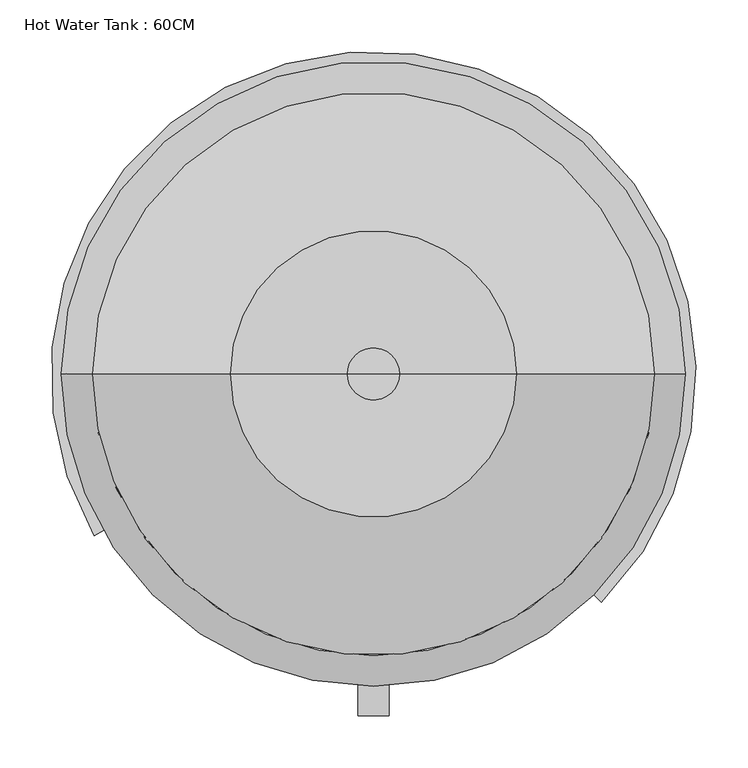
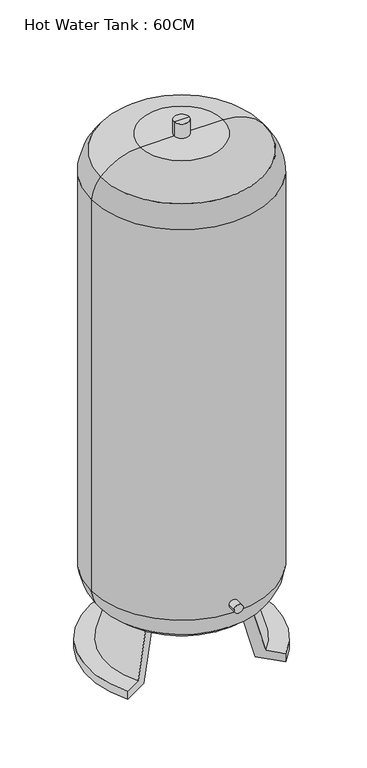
"""IFC4 building model written with IfcOpenShell, lengths in millimetres: flow terminal geometry, Hot Water Tank : 60CM."""

from ifc_helpers import new_model, si_unit, point, frame, frame_2d, origin, origin_2d, place, context, project, spatial, polyline, circle_curve, ellipse_curve, trimmed, segment, composite_curve, outline, extrude, source, transform, mapped, element, save
from ifc_brep_helpers import plane_surface, cylinder_surface, revolved_surface, advanced_brep


def hot_water_tank_60cm_0c93d085(model_context):
    return source(origin(), model_context, "Body", "SolidModel", [
        advanced_brep(
        [(0.0, 0.0, 1800.0), (-25.0, 0.0, 1800.0), (25.0, 0.0, 1800.0), (25.0, 0.0, 1850.0), (-25.0, 0.0, 1850.0), (0.0, 0.0, 1850.0)],
        [
            (0, 1),
            (1, 2, circle_curve(frame((0.0, 0.0, 1800.0), z_axis=(0.0, 0.0, -1.0), x_axis=(-1.0, 0.0, 0.0)), 25.0)),
            (2, 0),
            (2, 1, circle_curve(frame((0.0, 0.0, 1800.0), z_axis=(0.0, 0.0, -1.0), x_axis=(-1.0, 0.0, 0.0)), 25.0)),
            (3, 4, circle_curve(frame((0.0, 0.0, 1850.0), z_axis=(0.0, 0.0, 1.0), x_axis=(-1.0, 0.0, 0.0)), 25.0)),
            (4, 5),
            (5, 3),
            (4, 3, circle_curve(frame((0.0, 0.0, 1850.0), z_axis=(0.0, 0.0, 1.0), x_axis=(-1.0, 0.0, 0.0)), 25.0)),
            (1, 4),
            (3, 2),
        ],
        [
            plane_surface(frame((0.0, 0.0, 1800.0), z_axis=(0.0, 0.0, -1.0), x_axis=(-1.0, 0.0, 0.0))),
            plane_surface(frame((0.0, 0.0, 1850.0), z_axis=(0.0, 0.0, 1.0), x_axis=(-1.0, 0.0, 0.0))),
            cylinder_surface(frame((0.0, 0.0, 2445.24357), z_axis=(0.0, 0.0, -1.0), x_axis=(-1.0, 0.0, 0.0)), 25.0),
        ],
        [
            (0, [[1, 2, 3]]),
            (0, [[-3, 4, -1]]),
            (1, [[5, 6, 7]]),
            (1, [[8, -7, -6]]),
            (2, [[-2, 9, -5, 10]]),
            (2, [[-4, -10, -8, -9]]),
        ],
    ),
        extrude(outline(composite_curve([segment(trimmed(circle_curve(frame_2d((328.663576, 0.0)), 15.0), [point((328.663576, -15.0))], [point((328.663576, 15.0))], False, "CARTESIAN"), True, "CONTINUOUS"), segment(trimmed(circle_curve(frame_2d((328.663576, 0.0)), 15.0), [point((328.663576, 15.0))], [point((328.663576, -15.0))], False, "CARTESIAN"), True, "CONTINUOUS")], self_intersect=False)), frame((0.0, -328.1846937, 0.0), z_axis=(0.0, 1.0, 0.0), x_axis=(0.0, 0.0, 1.0)), (0.0, 0.0, 1.0), 328.1846937),
        extrude(outline(composite_curve([segment(trimmed(circle_curve(origin_2d(), 31.5), [point((31.5, 0.0))], [point((-31.5, 0.0))], False, "CARTESIAN"), True, "CONTINUOUS"), segment(trimmed(circle_curve(origin_2d(), 31.5), [point((-31.5, 0.0))], [point((31.5, 0.0))], False, "CARTESIAN"), True, "CONTINUOUS")], self_intersect=False)), frame((0.0, 0.0, 143.5224269), z_axis=(0.0, 0.0, 1.0), x_axis=(1.0, 0.0, 0.0)), (0.0, 0.0, 1.0), 25.0),
        advanced_brep(
        [(-137.3646911, 0.0, 170.0), (137.3646911, 0.0, 170.0), (0.0, 0.0, 170.0), (0.0, 0.0, 1800.0), (137.3646911, 0.0, 1800.0), (-137.3646911, 0.0, 1800.0), (-300.0, 0.0, 1671.2842497), (300.0, 0.0, 1671.2842497), (300.0, 0.0, 298.7157503), (-300.0, 0.0, 298.7157503), (154.7283228, -154.7283228, 0.0), (219.2031022, -219.2031022, 0.0), (219.2031022, -219.2031022, 28.5224269), (177.229398, -177.229398, 28.5224269), (145.7889001, -145.7889001, 183.5853527), (119.6850882, -119.6850882, 172.831439), (-217.0607962, -125.3201091, 28.5224269), (-268.4678752, -155.0, 28.5224269), (-268.4678752, -155.0, 0.0), (-189.5027198, -109.4094463, 0.0), (-146.5836979, -84.6301375, 172.831439), (-178.5542077, -103.0883199, 183.5853527), (-206.1766398, 0.0, 183.5853527), (206.1766398, 0.0, 183.5853527), (169.2602749, 0.0, 172.831439), (-169.2602749, 0.0, 172.831439), (-270.439329, 0.0, 228.2822685), (270.439329, 0.0, 228.2822685), (-270.439329, 0.0, 1741.7177315), (270.439329, 0.0, 1741.7177315)],
        [
            (0, 1, circle_curve(frame((0.0, 0.0, 170.0), z_axis=(0.0, 0.0, -1.0), x_axis=(1.0, 0.0, 0.0)), 137.3646911)),
            (1, 2),
            (2, 0),
            (1, 0, circle_curve(frame((0.0, 0.0, 170.0), z_axis=(0.0, 0.0, -1.0), x_axis=(1.0, 0.0, 0.0)), 137.3646911)),
            (3, 4),
            (4, 5, circle_curve(frame((0.0, 0.0, 1800.0), z_axis=(0.0, 0.0, 1.0), x_axis=(1.0, 0.0, 0.0)), 137.3646911)),
            (5, 3),
            (5, 4, circle_curve(frame((0.0, 0.0, 1800.0), z_axis=(0.0, 0.0, 1.0), x_axis=(1.0, 0.0, 0.0)), 137.3646911)),
            (6, 7, circle_curve(frame((0.0, 0.0, 1671.2842497), z_axis=(0.0, 0.0, -1.0), x_axis=(1.0, 0.0, 0.0)), 300.0)),
            (7, 8),
            (8, 9, circle_curve(frame((0.0, 0.0, 298.7157503), z_axis=(0.0, 0.0, 1.0), x_axis=(1.0, 0.0, 0.0)), 300.0)),
            (9, 6),
            (7, 6, circle_curve(frame((0.0, 0.0, 1671.2842497), z_axis=(0.0, 0.0, -1.0), x_axis=(1.0, 0.0, 0.0)), 300.0)),
            (9, 8, circle_curve(frame((0.0, 0.0, 298.7157503), z_axis=(0.0, 0.0, 1.0), x_axis=(1.0, 0.0, 0.0)), 300.0)),
            (10, 11),
            (11, 12),
            (12, 13),
            (13, 14),
            (14, 15, circle_curve(frame((97.1315046, -97.1315046, 351.0643496), z_axis=(0.7071067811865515, 0.7071067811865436, 0.0), x_axis=(0.7071067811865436, -0.7071067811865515, 0.0)), 181.0643496)),
            (15, 10),
            (16, 17),
            (17, 18),
            (18, 19),
            (19, 20),
            (20, 21, circle_curve(frame((-118.9613121, -68.6823456, 351.0643496), z_axis=(-0.4999999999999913, 0.8660254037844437, 0.0), x_axis=(-0.8660254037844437, -0.4999999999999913, 0.0)), 181.0643496)),
            (21, 16),
            (10, 19, circle_curve(frame((0.0, 0.0, 0.0), z_axis=(0.0, 0.0, 1.0), x_axis=(0.7071067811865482, -0.707106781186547, 0.0)), 218.8188926)),
            (18, 11, circle_curve(frame((0.0, 0.0, 0.0), z_axis=(0.0, 0.0, -1.0), x_axis=(0.7071067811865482, -0.707106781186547, 0.0)), 310.0)),
            (17, 12, circle_curve(frame((0.0, 0.0, 28.5224269), z_axis=(0.0, 0.0, -1.0), x_axis=(0.7071067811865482, -0.707106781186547, 0.0)), 310.0)),
            (16, 13, circle_curve(frame((0.0, 0.0, 28.5224269), z_axis=(0.0, 0.0, -1.0), x_axis=(0.7071067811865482, -0.707106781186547, 0.0)), 250.6402183)),
            (21, 22, circle_curve(frame((0.0, 0.0, 183.5853527), z_axis=(0.0, 0.0, -1.0), x_axis=(0.7071067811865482, -0.707106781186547, 0.0)), 206.1766398)),
            (22, 23, circle_curve(frame((0.0, 0.0, 183.5853527), z_axis=(0.0, 0.0, -1.0), x_axis=(0.7071067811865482, -0.707106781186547, 0.0)), 206.1766398)),
            (23, 14, circle_curve(frame((0.0, 0.0, 183.5853527), z_axis=(0.0, 0.0, -1.0), x_axis=(0.7071067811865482, -0.707106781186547, 0.0)), 206.1766398)),
            (15, 24, circle_curve(frame((0.0, 0.0, 172.831439), z_axis=(0.0, 0.0, 1.0), x_axis=(0.7071067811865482, -0.707106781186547, 0.0)), 169.2602749)),
            (24, 25, circle_curve(frame((0.0, 0.0, 172.831439), z_axis=(0.0, 0.0, 1.0), x_axis=(0.7071067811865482, -0.707106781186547, 0.0)), 169.2602749)),
            (25, 20, circle_curve(frame((0.0, 0.0, 172.831439), z_axis=(0.0, 0.0, 1.0), x_axis=(0.7071067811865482, -0.707106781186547, 0.0)), 169.2602749)),
            (0, 25, circle_curve(frame((-137.3646911, 0.0, 351.0643496), z_axis=(0.0, 1.0, 0.0), x_axis=(-1.0, 0.0, 0.0)), 181.0643496)),
            (24, 1, circle_curve(frame((137.3646911, 0.0, 351.0643496), z_axis=(0.0, 1.0, 0.0), x_axis=(1.0, 0.0, 0.0)), 181.0643496)),
            (26, 27, circle_curve(frame((0.0, 0.0, 228.2822685), z_axis=(0.0, 0.0, -1.0), x_axis=(1.0, 0.0, 0.0)), 270.439329)),
            (27, 23, circle_curve(frame((137.3646911, 0.0, 351.0643496), z_axis=(0.0, 1.0, 0.0), x_axis=(1.0, 0.0, 0.0)), 181.0643496)),
            (22, 26, circle_curve(frame((-137.3646911, 0.0, 351.0643496), z_axis=(0.0, 1.0, 0.0), x_axis=(-1.0, 0.0, 0.0)), 181.0643496)),
            (27, 26, circle_curve(frame((0.0, 0.0, 228.2822685), z_axis=(0.0, 0.0, -1.0), x_axis=(1.0, 0.0, 0.0)), 270.439329)),
            (8, 27, circle_curve(frame((176.8336808, 0.0, 308.9882046), z_axis=(0.0, 1.0, 0.0), x_axis=(1.0, 0.0, 0.0)), 123.5939542)),
            (26, 9, circle_curve(frame((-176.8336808, 0.0, 308.9882046), z_axis=(0.0, 1.0, 0.0), x_axis=(-1.0, 0.0, 0.0)), 123.5939542)),
            (6, 28, circle_curve(frame((-176.8336808, 0.0, 1661.0117954), z_axis=(0.0, 1.0, 0.0), x_axis=(-1.0, 0.0, 0.0)), 123.5939542)),
            (28, 29, circle_curve(frame((0.0, 0.0, 1741.7177315), z_axis=(0.0, 0.0, -1.0), x_axis=(1.0, 0.0, 0.0)), 270.439329)),
            (29, 7, circle_curve(frame((176.8336808, 0.0, 1661.0117954), z_axis=(0.0, 1.0, 0.0), x_axis=(1.0, 0.0, 0.0)), 123.5939542)),
            (29, 28, circle_curve(frame((0.0, 0.0, 1741.7177315), z_axis=(0.0, 0.0, -1.0), x_axis=(1.0, 0.0, 0.0)), 270.439329)),
            (4, 29, circle_curve(frame((137.3646911, 0.0, 1618.9356504), z_axis=(0.0, 1.0, 0.0), x_axis=(1.0, 0.0, 0.0)), 181.0643496)),
            (28, 5, circle_curve(frame((-137.3646911, 0.0, 1618.9356504), z_axis=(0.0, 1.0, 0.0), x_axis=(-1.0, 0.0, 0.0)), 181.0643496)),
        ],
        [
            plane_surface(frame((0.0, 0.0, 170.0), z_axis=(0.0, 0.0, -1.0), x_axis=(1.0, 0.0, 0.0))),
            plane_surface(frame((0.0, 0.0, 1800.0), z_axis=(0.0, 0.0, 1.0), x_axis=(1.0, 0.0, 0.0))),
            cylinder_surface(frame((0.0, 0.0, 2975.24357), z_axis=(0.0, 0.0, 1.0), x_axis=(1.0, 0.0, 0.0)), 300.0),
            plane_surface(frame((0.0, 0.0, 2975.24357), z_axis=(-0.707106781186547, -0.7071067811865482, 0.0), x_axis=(0.7071067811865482, -0.707106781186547, 0.0))),
            plane_surface(frame((0.0, 0.0, 2975.24357), z_axis=(0.499999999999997, -0.8660254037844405, 0.0), x_axis=(-0.8660254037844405, -0.499999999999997, 0.0))),
            plane_surface(frame((0.0, 0.0, 0.0), z_axis=(0.0, 0.0, -1.0000000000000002), x_axis=(0.7071067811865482, -0.707106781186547, 0.0))),
            cylinder_surface(frame((0.0, 0.0, 2975.24357), z_axis=(0.0, 0.0, 1.0), x_axis=(0.7071067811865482, -0.707106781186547, 0.0)), 310.0),
            plane_surface(frame((0.0, 0.0, 28.5224269), z_axis=(0.0, 0.0, 1.0000000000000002), x_axis=(0.7071067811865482, -0.707106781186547, 0.0))),
            revolved_surface(polyline([(177.229398, -177.229398, 28.5224269), (134.6394352, -134.6394352, 238.573943)]), (0.0, 0.0, 2975.24357), (0.0, 0.0, 1.0)),
            revolved_surface(polyline([(106.3551639, -106.3551639, 238.573943), (154.7283228, -154.7283228, 0.0)]), (0.0, 0.0, 2975.24357), (0.0, 0.0, 1.0)),
            revolved_surface(trimmed(ellipse_curve(frame((137.3646911, 0.0, 351.0643496), z_axis=(0.0, -1.0, 0.0), x_axis=(1.0, 0.0, 0.0)), 181.0643496, 181.0643496), [point((137.3646911, 0.0, 170.0))], [point((270.439329, 0.0, 228.2822685))], True, "CARTESIAN"), (0.0, 0.0, 2975.24357), (0.0, 0.0, 1.0)),
            revolved_surface(trimmed(ellipse_curve(frame((176.8336808, 0.0, 308.9882046), z_axis=(0.0, -1.0, 0.0), x_axis=(1.0, 0.0, 0.0)), 123.5939542, 123.5939542), [point((270.439329, 0.0, 228.2822685))], [point((300.0, 0.0, 298.7157503))], True, "CARTESIAN"), (0.0, 0.0, 2975.24357), (0.0, 0.0, 1.0)),
            revolved_surface(trimmed(ellipse_curve(frame((176.8336808, 0.0, 1661.0117954), z_axis=(0.0, -1.0, 0.0), x_axis=(1.0, 0.0, 0.0)), 123.5939542, 123.5939542), [point((300.0, 0.0, 1671.2842497))], [point((270.439329, 0.0, 1741.7177315))], True, "CARTESIAN"), (0.0, 0.0, 2975.24357), (0.0, 0.0, 1.0)),
            revolved_surface(trimmed(ellipse_curve(frame((137.3646911, 0.0, 1618.9356504), z_axis=(0.0, -1.0, 0.0), x_axis=(1.0, 0.0, 0.0)), 181.0643496, 181.0643496), [point((270.439329, 0.0, 1741.7177315))], [point((137.3646911, 0.0, 1800.0))], True, "CARTESIAN"), (0.0, 0.0, 2975.24357), (0.0, 0.0, 1.0)),
        ],
        [
            (0, [[1, 2, 3]]),
            (0, [[-2, 4, -3]]),
            (1, [[5, 6, 7]]),
            (1, [[-5, -7, 8]]),
            (2, [[9, 10, 11, 12]]),
            (2, [[-10, 13, -12, 14]]),
            (3, [[15, 16, 17, 18, 19, 20]]),
            (4, [[21, 22, 23, 24, 25, 26]]),
            (5, [[-15, 27, -23, 28]]),
            (6, [[-16, -28, -22, 29]]),
            (7, [[-17, -29, -21, 30]]),
            (8, [[-30, -26, 31, 32, 33, -18]]),
            (9, [[-27, -20, 34, 35, 36, -24]]),
            (10, [[-1, 37, -35, 38]]),
            (10, [[39, 40, -32, 41]]),
            (10, [[-4, -38, -34, -19, -33, -40, 42, -41, -31, -25, -36, -37]]),
            (11, [[-11, 43, -39, 44]]),
            (11, [[-14, -44, -42, -43]]),
            (12, [[-9, 45, 46, 47]]),
            (12, [[-13, -47, 48, -45]]),
            (13, [[-6, 49, -46, 50]]),
            (13, [[-8, -50, -48, -49]]),
        ],
    ),
    ])


if __name__ == "__main__":
    model = new_model("IFC4")
    model_context = context("Model", 3, world=origin())
    ifc_project = project(units=[si_unit("LENGTHUNIT", "METRE", prefix="MILLI")], contexts=[model_context])
    site = spatial("IfcSite", under=ifc_project)
    building = spatial("IfcBuilding", under=site)
    placement = place(None, origin())
    hot_water_tank_60cm_shape = hot_water_tank_60cm_0c93d085(model_context)
    element("IfcFlowTerminal", 1, ObjectType="Hot Water Tank : 60CM", at=placement, inside=building, context=model_context, shape_type="MappedRepresentation", body=[
        mapped(hot_water_tank_60cm_shape, transform((0.0, 0.0, 0.0), x_axis=(1.0, 0.0, 0.0), y_axis=(0.0, 1.0, 0.0), z_axis=(0.0, 0.0, 1.0))),
    ])
    save(model, "model.ifc")
